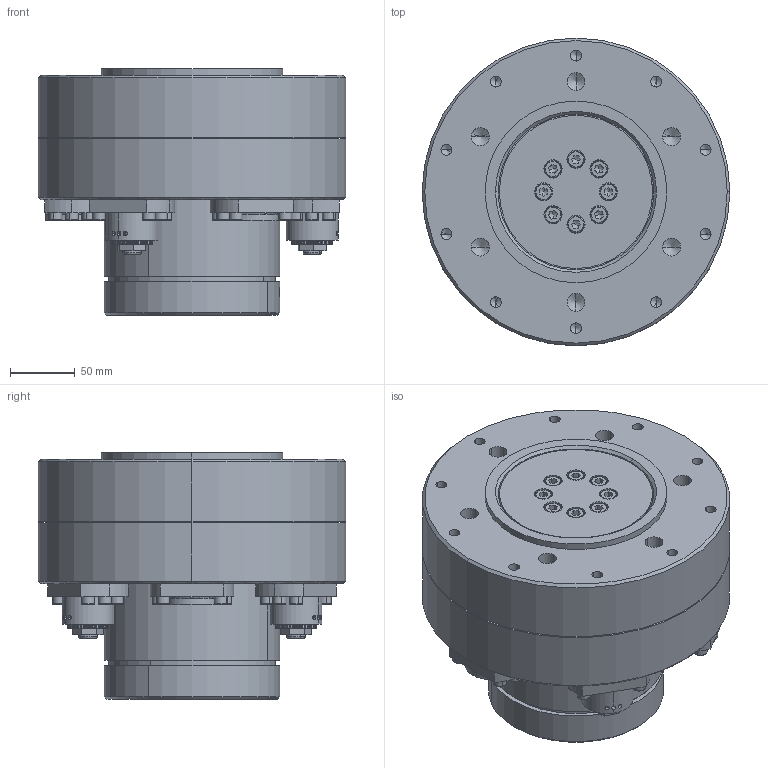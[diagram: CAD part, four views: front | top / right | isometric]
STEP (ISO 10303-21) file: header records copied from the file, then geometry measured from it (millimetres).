
FILE_DESCRIPTION(('STEP AP203'),'1');
FILE_NAME('0_dsm_3md_d48-a1.stp','2024-04-16T06:53:35',('TraceParts'),('TraceParts S.A.'),'Spatial InterOp 3D',' ',' ');
FILE_SCHEMA(('CONFIG_CONTROL_DESIGN'));
Length unit declared in the file: millimetre
Products named in the file (1): 1
Bounding box: 237 x 237 x 190 mm (x, y, z)
Volume: 5198449.4 mm3; surface area: 537174.5 mm2
Topology: 1 solids, 1 shells, 2584 faces, 8204 edges, 5431 vertices
Faces by surface type: plane 819, cylinder 704, cone 424, bspline 402, torus 229, sphere 6
Entity records: 97766 total; most frequent: CARTESIAN_POINT 25840, ORIENTED_EDGE 16084, DIRECTION 14700, EDGE_CURVE 8042, AXIS2_PLACEMENT_3D 5643, VERTEX_POINT 5431, CIRCLE 3442, LINE 3414
